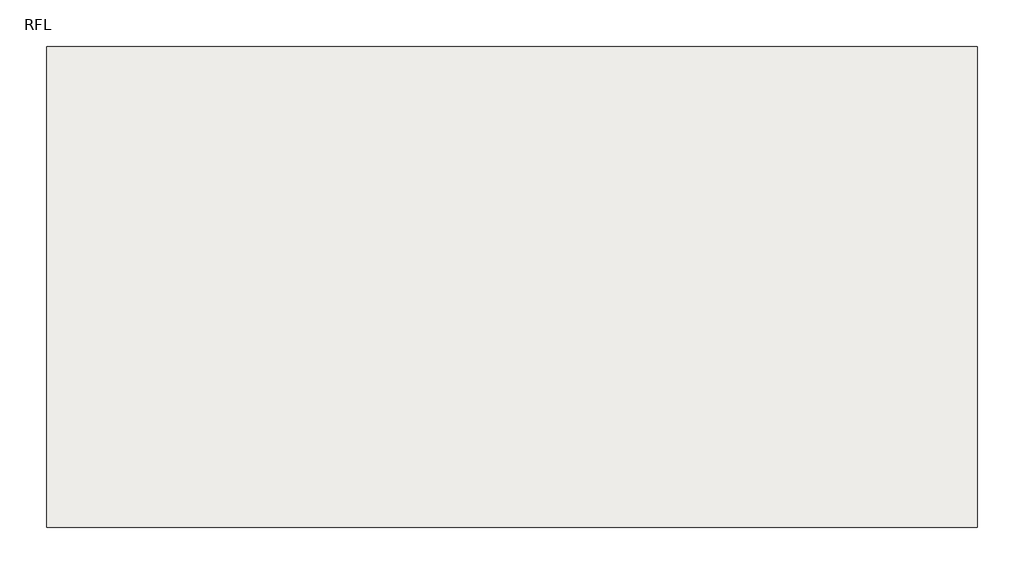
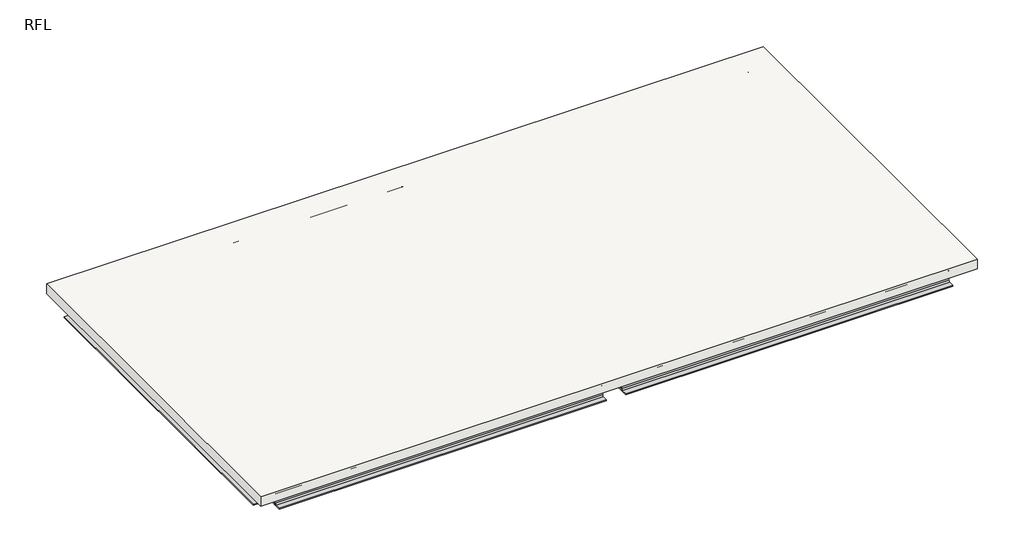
# One storey: 7 beams, 1 slab.
"""IFC4 building model written with IfcOpenShell, lengths in millimetres."""

import ifcopenshell
import ifcopenshell.guid

model = None  # the IFC model being written
_history = None  # IfcOwnerHistory: only IFC2X3 demands one
_inside = {}  # id of a spatial element -> (the spatial element, [elements in it])
_under = {}  # id of a project, library or spatial element -> (it, [spatial elements below it])
_declared = {}  # id of a project -> (the project, [libraries it declares])
_typed = {}  # id of a type object -> (the type object, [elements of that type])
_made_of = {}  # id of a material, layer set ... -> (it, [elements and type objects made of it])


def new_model(schema):
    """Start an empty IFC model of exactly this schema.

    Asked for "IFC4X3", IfcOpenShell would pick the latest addendum, in which some entities
    have other attributes; the version numbers below select the first issue.
    IFC2X3 requires an IfcOwnerHistory on every rooted entity: one is made here for all.
    """
    global model, _history
    if schema == "IFC4X3":
        model = ifcopenshell.file(schema_version=(4, 3, 0, 0))
    else:
        model = ifcopenshell.file(schema=schema)
    _inside.clear()
    _under.clear()
    _declared.clear()
    _typed.clear()
    _made_of.clear()
    _history = None
    if model.schema == "IFC2X3":
        org = make("IfcOrganization", Name="unknown")
        user = make(
            "IfcPersonAndOrganization",
            ThePerson=make("IfcPerson", FamilyName="unknown"),
            TheOrganization=org,
        )
        app = make(
            "IfcApplication",
            ApplicationDeveloper=org,
            Version="unknown",
            ApplicationFullName="unknown",
            ApplicationIdentifier="unknown",
        )
        _history = make(
            "IfcOwnerHistory",
            OwningUser=user,
            OwningApplication=app,
            ChangeAction="ADDED",
            CreationDate=0,
        )
    return model


def make(cls, **values):
    """One entity of the class cls with the attributes given. An attribute that is None is left unset."""
    return model.create_entity(
        cls, **{name: value for name, value in values.items() if value is not None}
    )


def rooted(cls, **values):
    """An entity with a GlobalId (a new one), such as an element, a storey or a relation."""
    return make(cls, GlobalId=ifcopenshell.guid.new(), OwnerHistory=_history, **values)


def si_unit(unit_type, name, prefix=None):
    """IfcSIUnit, for example si_unit("LENGTHUNIT", "METRE", prefix="MILLI")."""
    return make("IfcSIUnit", UnitType=unit_type, Prefix=prefix, Name=name)


def assignment(units):
    """IfcUnitAssignment: the units of a project."""
    return None if units is None else make("IfcUnitAssignment", Units=units)


def point(xyz):
    """IfcCartesianPoint."""
    return None if xyz is None else make("IfcCartesianPoint", Coordinates=xyz)


def direction(xyz):
    """IfcDirection."""
    return None if xyz is None else make("IfcDirection", DirectionRatios=xyz)


def frame(location, z_axis=None, x_axis=None):
    """IfcAxis2Placement3D, a coordinate frame: its origin and axes. An axis left out is left unset."""
    return make(
        "IfcAxis2Placement3D",
        Location=point(location),
        Axis=direction(z_axis),
        RefDirection=direction(x_axis),
    )


def frame_2d(location, x_axis=None):
    """IfcAxis2Placement2D, a coordinate frame in the plane: its origin and x axis."""
    return make(
        "IfcAxis2Placement2D", Location=point(location), RefDirection=direction(x_axis)
    )


def origin():
    """The frame at (0, 0, 0) with its axes left unset."""
    return frame((0.0, 0.0, 0.0))


def place(relative_to, where):
    """IfcLocalPlacement: puts the frame where relative to a parent placement (None: the world)."""
    return make(
        "IfcLocalPlacement", PlacementRelTo=relative_to, RelativePlacement=where
    )


def context(
    kind, dimensions, precision=None, world=None, true_north=None, identifier=None
):
    """IfcGeometricRepresentationContext, for example the 3D "Model" context."""
    return make(
        "IfcGeometricRepresentationContext",
        ContextIdentifier=identifier,
        ContextType=kind,
        CoordinateSpaceDimension=dimensions,
        Precision=precision,
        WorldCoordinateSystem=world,
        TrueNorth=true_north,
    )


def project(units=None, contexts=None):
    """IfcProject with its units and contexts."""
    return rooted(
        "IfcProject",
        Name="project",
        RepresentationContexts=contexts,
        UnitsInContext=assignment(units),
    )


def spatial(cls, under=None, at=None, **own):
    """A site, building, storey or space (cls), placed at a placement, below another one or the project."""
    s = rooted(cls, ObjectPlacement=at, **own)
    if under is not None:
        _under.setdefault(under.id(), (under, []))[1].append(s)
    return s


def polyline(points):
    """IfcPolyline through the points."""
    return make("IfcPolyline", Points=[point(p) for p in points])


def circle_curve(where, radius):
    """IfcCircle in the frame where."""
    return make("IfcCircle", Position=where, Radius=radius)


def trimmed(basis, trim1, trim2, sense, master):
    """IfcTrimmedCurve: the piece of a basis curve between two trims."""
    return make(
        "IfcTrimmedCurve",
        BasisCurve=basis,
        Trim1=trim1,
        Trim2=trim2,
        SenseAgreement=sense,
        MasterRepresentation=master,
    )


def segment(curve, same_sense, transition):
    """IfcCompositeCurveSegment."""
    return make(
        "IfcCompositeCurveSegment",
        Transition=transition,
        SameSense=same_sense,
        ParentCurve=curve,
    )


def composite_curve(segments, self_intersect=None):
    """IfcCompositeCurve: segments joined end to end."""
    return make("IfcCompositeCurve", Segments=segments, SelfIntersect=self_intersect)


def outline(outer, holes=None, kind="AREA"):
    """IfcArbitraryClosedProfileDef: a profile drawn as a closed curve; with holes, ...WithVoids."""
    if holes is None:
        return make("IfcArbitraryClosedProfileDef", ProfileType=kind, OuterCurve=outer)
    return make(
        "IfcArbitraryProfileDefWithVoids",
        ProfileType=kind,
        OuterCurve=outer,
        InnerCurves=holes,
    )


def extrude(swept, where, along, depth):
    """IfcExtrudedAreaSolid: the profile swept, set in the frame where, extruded along a direction by depth."""
    return make(
        "IfcExtrudedAreaSolid",
        SweptArea=swept,
        Position=where,
        ExtrudedDirection=direction(along),
        Depth=depth,
    )


def shape(context_of_items, identifier, shape_type, items):
    """IfcShapeRepresentation: the items that make up one representation, for example the "Body"."""
    return make(
        "IfcShapeRepresentation",
        ContextOfItems=context_of_items,
        RepresentationIdentifier=identifier,
        RepresentationType=shape_type,
        Items=items,
    )


def source(mapping_origin, context_of_items, identifier, shape_type, items):
    """IfcRepresentationMap: a shape defined once, which mapped items show again and again."""
    return make(
        "IfcRepresentationMap",
        MappingOrigin=mapping_origin,
        MappedRepresentation=shape(context_of_items, identifier, shape_type, items),
    )


def transform(
    local_origin,
    x_axis=None,
    y_axis=None,
    z_axis=None,
    scale=None,
    scale2=None,
    scale3=None,
    uniform=True,
):
    """IfcCartesianTransformationOperator3D, or its non-uniform kind. x_axis, y_axis, z_axis: its Axis1, 2, 3."""
    if uniform:
        return make(
            "IfcCartesianTransformationOperator3D",
            Axis1=direction(x_axis),
            Axis2=direction(y_axis),
            LocalOrigin=point(local_origin),
            Scale=scale,
            Axis3=direction(z_axis),
        )
    return make(
        "IfcCartesianTransformationOperator3DnonUniform",
        Axis1=direction(x_axis),
        Axis2=direction(y_axis),
        LocalOrigin=point(local_origin),
        Scale=scale,
        Axis3=direction(z_axis),
        Scale2=scale2,
        Scale3=scale3,
    )


def mapped(mapping_source, mapping_target):
    """IfcMappedItem: shows the shape of a source again, moved by a transform."""
    return make(
        "IfcMappedItem", MappingSource=mapping_source, MappingTarget=mapping_target
    )


def made_of(thing, what):
    """Note that an element or type object is made of a material, layer set ...; save() writes the relation."""
    if what is not None:
        _made_of.setdefault(what.id(), (what, []))[1].append(thing)
    return thing


def element(
    cls,
    number,
    at=None,
    inside=None,
    cuts=None,
    type_object=None,
    material=None,
    context=None,
    identifier="Body",
    shape_type=None,
    held_by="IfcProductDefinitionShape",
    body=None,
    shapes=None,
    **own,
):
    """One element of the class cls, such as IfcWall. Its Tag is "e" and its number.

    at: its placement. inside: the storey or other place that contains it. cuts: it is an
    opening in that element (IfcRelVoidsElement). A single representation is given by context,
    identifier, shape_type and body (its items); several are given by shapes. held_by: the class
    of the entity that holds the representations. save() writes the other relations.
    """
    e = rooted(cls, Tag="e%d" % number, ObjectPlacement=at, **own)
    if body is not None:
        shapes = [shape(context, identifier, shape_type, body)]
    if shapes is not None:
        e.Representation = make(held_by, Representations=shapes)
    if inside is not None:
        _inside.setdefault(inside.id(), (inside, []))[1].append(e)
    if cuts is not None:
        rooted(
            "IfcRelVoidsElement", RelatingBuildingElement=cuts, RelatedOpeningElement=e
        )
    if type_object is not None:
        _typed.setdefault(type_object.id(), (type_object, []))[1].append(e)
    return made_of(e, material)


def aggregate(whole, parts):
    """IfcRelAggregates: a whole, such as a stair, and the parts it consists of."""
    return rooted("IfcRelAggregates", RelatingObject=whole, RelatedObjects=parts)


def save(model, path):
    """Write the relations noted so far, then the file.

    IfcRelAggregates (storeys below a building ...), IfcRelContainedInSpatialStructure (elements
    in a storey), IfcRelDefinesByType, IfcRelAssociatesMaterial and IfcRelDeclares: one each for
    every whole, place, type object, material and project.
    """
    for whole, parts in _under.values():
        aggregate(whole, parts)
    for where, things in _inside.values():
        rooted(
            "IfcRelContainedInSpatialStructure",
            RelatedElements=things,
            RelatingStructure=where,
        )
    for kind, things in _typed.values():
        rooted("IfcRelDefinesByType", RelatedObjects=things, RelatingType=kind)
    for what, things in _made_of.values():
        rooted("IfcRelAssociatesMaterial", RelatedObjects=things, RelatingMaterial=what)
    for by, libraries in _declared.values():
        rooted("IfcRelDeclares", RelatingContext=by, RelatedDefinitions=libraries)
    model.write(path)


def heb200_d26bcb9a(model_context):
    return source(origin(), model_context, "Body", "SweptSolid", [
        extrude(outline(composite_curve([segment(polyline([(100.0, -85.0), (100.0, -100.0), (-100.0, -100.0), (-100.0, -85.0), (-22.5, -85.0)]), True, "CONTINUOUS"), segment(trimmed(circle_curve(frame_2d((-22.5, -67.0)), 18.0), [point((-22.5, -85.0))], [point((-4.5, -67.0))], True, "CARTESIAN"), True, "CONTINUOUS"), segment(polyline([(-4.5, -67.0), (-4.5, 67.0)]), True, "CONTINUOUS"), segment(trimmed(circle_curve(frame_2d((-22.5, 67.0)), 18.0), [point((-4.5, 67.0))], [point((-22.5, 85.0))], True, "CARTESIAN"), True, "CONTINUOUS"), segment(polyline([(-22.5, 85.0), (-100.0, 85.0), (-100.0, 100.0), (100.0, 100.0), (100.0, 85.0), (22.5, 85.0)]), True, "CONTINUOUS"), segment(trimmed(circle_curve(frame_2d((22.5, 67.0)), 18.0), [point((22.5, 85.0))], [point((4.5, 67.0))], True, "CARTESIAN"), True, "CONTINUOUS"), segment(polyline([(4.5, 67.0), (4.5, -67.0)]), True, "CONTINUOUS"), segment(trimmed(circle_curve(frame_2d((22.5, -67.0)), 18.0), [point((4.5, -67.0))], [point((22.5, -85.0))], True, "CARTESIAN"), True, "CONTINUOUS"), segment(polyline([(22.5, -85.0), (100.0, -85.0)]), True, "CONTINUOUS")], self_intersect=False)), frame((-2362.3, 0.0, 0.0), z_axis=(1.0, 0.0, 0.0), x_axis=(0.0, 1.0, 0.0)), (0.0, 0.0, 1.0), 4724.6),
    ])


model = new_model("IFC4")

# Units and contexts
model_context = context("Model", 3, world=origin())
ifc_project = project(units=[si_unit("LENGTHUNIT", "METRE", prefix="MILLI")], contexts=[model_context])

# Site, building, storey
site = spatial("IfcSite", under=ifc_project)
building = spatial("IfcBuilding", under=site)
storey = spatial("IfcBuildingStorey", under=building, Name="RFL", Elevation=7400.0)

# Beams
placement = place(None, origin())
heb200_shape = heb200_d26bcb9a(model_context)
element("IfcBeam", 1, ObjectType="HE-B : HEB200", at=placement, inside=storey, context=model_context, shape_type="MappedRepresentation", body=[
    mapped(heb200_shape, transform((-5047.3880564, 86.0382733, 7150.0), x_axis=(0.0, -1.0, 0.0), y_axis=(1.0, 0.0, 0.0), z_axis=(0.0, 0.0, 1.0))),
])
element("IfcBeam", 2, ObjectType="HE-B : HEB200", at=placement, inside=storey, context=model_context, shape_type="MappedRepresentation", body=[
    mapped(heb200_shape, transform((-47.3880564, 86.0382733, 7150.0), x_axis=(0.0, -1.0, 0.0), y_axis=(1.0, 0.0, 0.0), z_axis=(0.0, 0.0, 1.0))),
])
element("IfcBeam", 3, ObjectType="HE-B : HEB200", at=placement, inside=storey, context=model_context, shape_type="MappedRepresentation", body=[
    mapped(heb200_shape, transform((4952.6119436, 86.0382733, 7150.0), x_axis=(0.0, -1.0, 0.0), y_axis=(1.0, 0.0, 0.0), z_axis=(0.0, 0.0, 1.0))),
])
element("IfcBeam", 4, ObjectType="HE-B : HEB200", at=placement, inside=storey, context=model_context, shape_type="MappedRepresentation", body=[
    mapped(heb200_shape, transform((2452.6119436, -2413.9617267, 7150.0), x_axis=(-1.0, 0.0, 0.0), y_axis=(0.0, -1.0, 0.0), z_axis=(0.0, 0.0, 1.0))),
])
element("IfcBeam", 5, ObjectType="HE-B : HEB200", at=placement, inside=storey, context=model_context, shape_type="MappedRepresentation", body=[
    mapped(heb200_shape, transform((-2547.3880564, -2413.9617267, 7150.0), x_axis=(-1.0, 0.0, 0.0), y_axis=(0.0, -1.0, 0.0), z_axis=(0.0, 0.0, 1.0))),
])
element("IfcBeam", 6, ObjectType="HE-B : HEB200", at=placement, inside=storey, context=model_context, shape_type="MappedRepresentation", body=[
    mapped(heb200_shape, transform((2452.6119436, 2586.0382733, 7150.0), x_axis=(-1.0, 0.0, 0.0), y_axis=(0.0, -1.0, 0.0), z_axis=(0.0, 0.0, 1.0))),
])
element("IfcBeam", 7, ObjectType="HE-B : HEB200", at=placement, inside=storey, context=model_context, shape_type="MappedRepresentation", body=[
    mapped(heb200_shape, transform((-2547.3880564, 2586.0382733, 7150.0), x_axis=(-1.0, 0.0, 0.0), y_axis=(0.0, -1.0, 0.0), z_axis=(0.0, 0.0, 1.0))),
])

# Slab
element("IfcSlab", 8, ObjectType="一般 150 mm", at=placement, inside=storey, context=model_context, shape_type="SweptSolid", body=[
    extrude(outline(polyline([(5127.6119436, 2761.0382733), (5127.6119436, -2588.9617267), (-5222.3880564, -2588.9617267), (-5222.3880564, 2761.0382733), (5127.6119436, 2761.0382733)])), frame((0.0, 0.0, 7250.0), z_axis=(0.0, 0.0, 1.0), x_axis=(1.0, 0.0, 0.0)), (0.0, 0.0, 1.0), 150.0),
])

save(model, "model.ifc")
